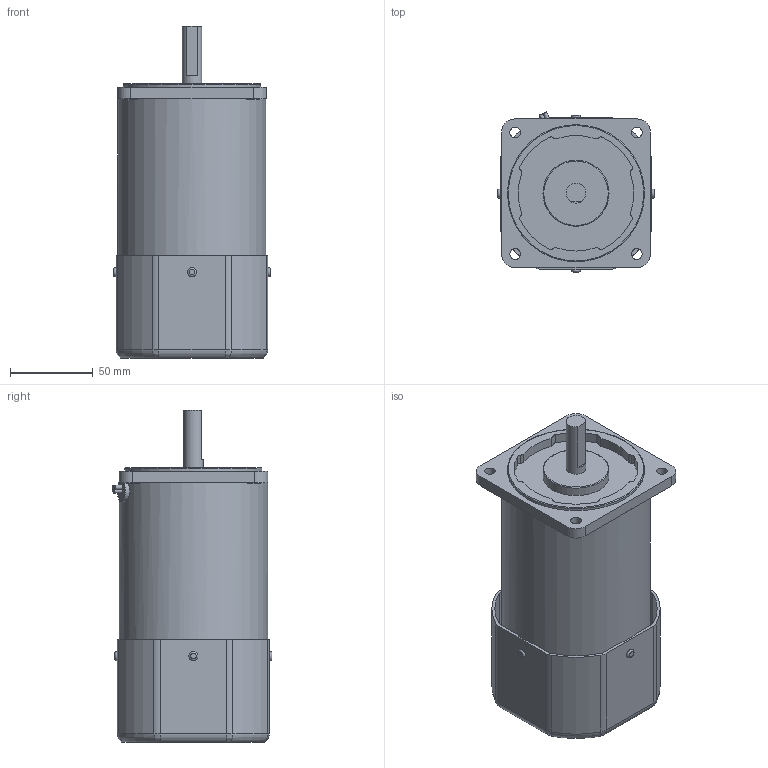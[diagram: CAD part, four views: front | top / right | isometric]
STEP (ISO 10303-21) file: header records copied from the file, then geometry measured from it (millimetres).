
FILE_DESCRIPTION((''),'2;1');
FILE_NAME('E:\2공장-도면\3D\표준형 3D(민규)\step file\B\K9RS60ㅁ-B.stp','2014-11-13T18:00:52',('AHN'),(''),'Autodesk Inventor 2012','Autodesk Inventor 2012','');
FILE_SCHEMA(('CONFIG_CONTROL_DESIGN'));
Length unit declared in the file: millimetre
Products named in the file (1): K9ㅁS60ㅁ-Bㄱ
Bounding box: 95 x 96.71 x 201 mm (x, y, z)
Volume: 989073.6 mm3; surface area: 106385 mm2
Topology: 1 solids, 1 shells, 231 faces, 581 edges, 357 vertices
Faces by surface type: cylinder 119, plane 66, torus 38, bspline 8
Full cylindrical faces by diameter (mm): 6.5 x4, 8 x4, 12 x1, 40 x1, 83 x1, 90 x1
Entity records: 7511 total; most frequent: CARTESIAN_POINT 1956, DIRECTION 1196, ORIENTED_EDGE 1108, EDGE_CURVE 554, AXIS2_PLACEMENT_3D 475, VERTEX_POINT 348, EDGE_LOOP 295, CIRCLE 251
